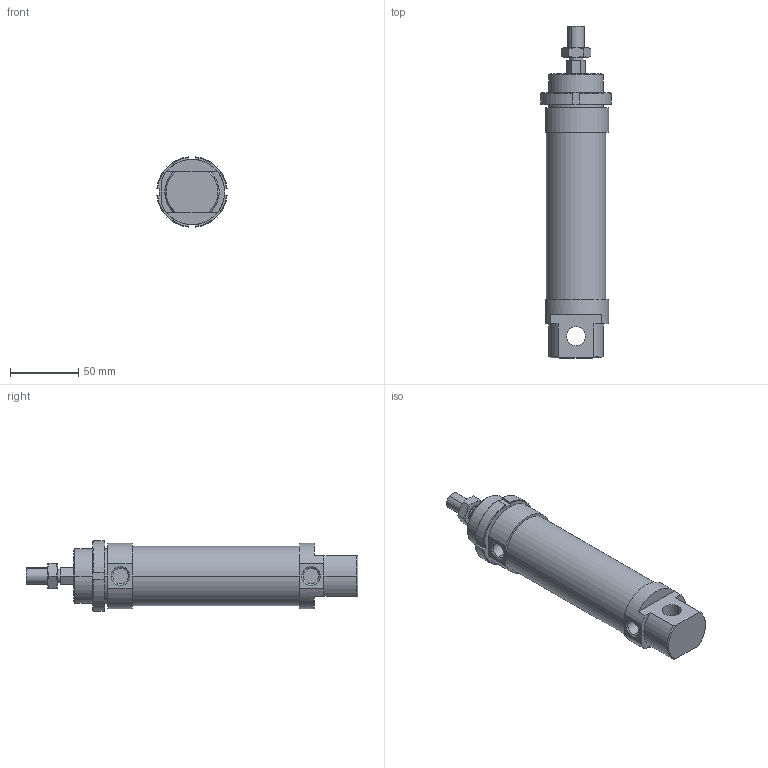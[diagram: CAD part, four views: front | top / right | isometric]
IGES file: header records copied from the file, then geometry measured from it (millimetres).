
Global section: file name: No Iges File Name specified; native system: AutoDesk Inventor R6.0; preprocessor: AutoDesk Inventor Iges Exporter R6.0; author: No Author specified; organization: No Organization specified; date: 20030405.074437; units: millimetre
Bounding box: 51.76 x 244 x 51.76 mm (x, y, z)
Volume: 312677.2 mm3; surface area: 51695.3 mm2
Topology: 4 solids, 4 shells, 126 faces, 298 edges, 188 vertices
Faces by surface type: plane 52, cone 30, cylinder 20, bspline 20, revolution 4
